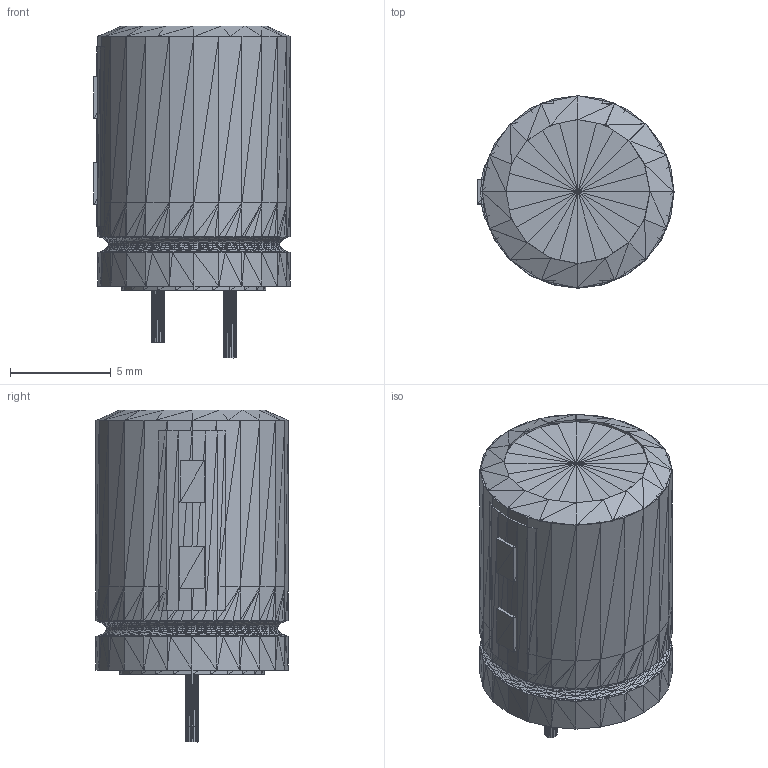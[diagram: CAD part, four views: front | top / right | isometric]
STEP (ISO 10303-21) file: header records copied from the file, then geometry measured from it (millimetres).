
FILE_DESCRIPTION(('HOOPS Exchange Step'),'2;1');
FILE_NAME('***.stp');
FILE_SCHEMA( ('AP242_MANAGED_MODEL_BASED_3D_ENGINEERING_MIM_LF {1 0 10303 442 1 1 4 }') );
Length unit declared in the file: inch
Products named in the file (11): CAPOLV375X500MIL_2; CAPOLV375X500MIL_3; CAPOLV375X500MIL_4; CAPOLV375X500MIL_5; CAPOLV375X500MIL_6; CAPOLV375X500MIL_7; CAPOLV375X500MIL_8; CAPOLV375X500MIL_9; CAPOLV375X500MIL_10; CAPOLV375X500MIL_11; CAPOLV375X500MIL
Assembly tree (10 placements, depth 2):
  CAPOLV375X500MIL
    CAPOLV375X500MIL_2
    CAPOLV375X500MIL_3
    CAPOLV375X500MIL_4
    CAPOLV375X500MIL_5
    CAPOLV375X500MIL_6
    CAPOLV375X500MIL_7
    CAPOLV375X500MIL_8
    CAPOLV375X500MIL_9
    CAPOLV375X500MIL_10
    CAPOLV375X500MIL_11
Bounding box: 9.72 x 9.53 x 16.46 mm (x, y, z)
Volume: 952.2 mm3; surface area: 1043.3 mm2
Topology: 10 solids, 10 shells, 2004 faces, 3006 edges, 1020 vertices
Faces by surface type: plane 2004
Entity records: 39590 total; most frequent: DIRECTION 7058, CARTESIAN_POINT 6052, ORIENTED_EDGE 6012, VECTOR 3006, LINE 3006, EDGE_CURVE 3006, AXIS2_PLACEMENT_3D 2026, PLANE 2004
